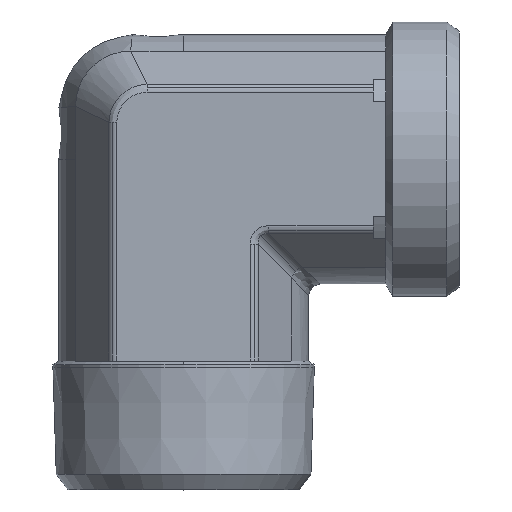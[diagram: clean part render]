
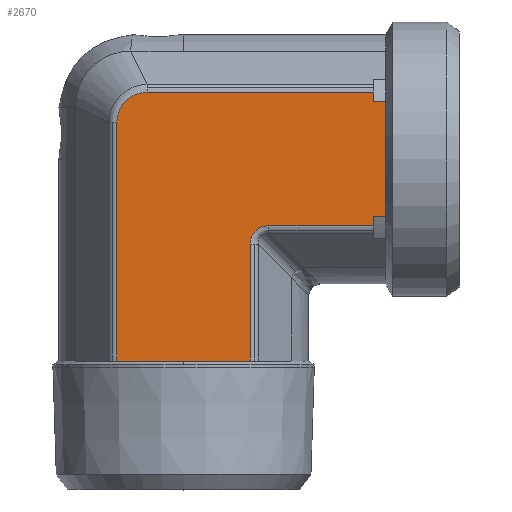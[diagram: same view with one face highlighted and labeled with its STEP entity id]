
A CAD part, top view. The second image highlights one B-rep face of the part: STEP entity #2670.
In plain terms, the highlighted planar face has unit normal (0, 0, 1) as drawn and (0, -1, 0) by its records, which use the part's own axes.
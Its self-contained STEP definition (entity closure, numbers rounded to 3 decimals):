
#361=CARTESIAN_POINT('',(9.429,-20.375,10.897));
#362=VERTEX_POINT('',#361);
#370=CARTESIAN_POINT('',(28.5,-20.375,10.897));
#371=VERTEX_POINT('',#370);
#372=CARTESIAN_POINT('',(9.429,-20.375,10.897));
#373=DIRECTION('',(1.0,0.0,0.0));
#374=VECTOR('',#373,19.071);
#375=LINE('',#372,#374);
#376=EDGE_CURVE('',#362,#371,#375,.T.);
#485=CARTESIAN_POINT('',(-15.397,-20.375,-5.976));
#486=VERTEX_POINT('',#485);
#494=CARTESIAN_POINT('',(-15.397,-20.375,31.0));
#495=VERTEX_POINT('',#494);
#496=CARTESIAN_POINT('',(-15.397,-20.375,-5.976));
#497=DIRECTION('',(0.0,0.0,1.0));
#498=VECTOR('',#497,36.976);
#499=LINE('',#496,#498);
#500=EDGE_CURVE('',#486,#495,#499,.T.);
#711=CARTESIAN_POINT('',(28.5,-20.375,0.));
#712=VERTEX_POINT('',#711);
#2069=CARTESIAN_POINT('',(6.397,-20.375,31.));
#2070=VERTEX_POINT('',#2069);
#2071=CARTESIAN_POINT('',(4.831,-20.375,31.0));
#2072=VERTEX_POINT('',#2071);
#2073=CARTESIAN_POINT('',(6.397,-20.375,31.));
#2074=DIRECTION('',(-1.0,0.0,0.0));
#2075=VECTOR('',#2074,1.566);
#2076=LINE('',#2073,#2075);
#2077=EDGE_CURVE('',#2070,#2072,#2076,.T.);
#2128=CARTESIAN_POINT('',(-13.831,-20.375,31.0));
#2129=VERTEX_POINT('',#2128);
#2130=CARTESIAN_POINT('',(-13.831,-20.375,31.0));
#2131=DIRECTION('',(-1.0,0.0,0.0));
#2132=VECTOR('',#2131,1.566);
#2133=LINE('',#2130,#2132);
#2134=EDGE_CURVE('',#2129,#495,#2133,.T.);
#2233=CARTESIAN_POINT('',(4.831,-20.375,33.0));
#2234=VERTEX_POINT('',#2233);
#2235=CARTESIAN_POINT('',(4.831,-20.375,31.0));
#2236=DIRECTION('',(0.0,0.0,1.0));
#2237=VECTOR('',#2236,2.0);
#2238=LINE('',#2235,#2237);
#2239=EDGE_CURVE('',#2072,#2234,#2238,.T.);
#2274=CARTESIAN_POINT('',(-13.831,-20.375,33.0));
#2275=VERTEX_POINT('',#2274);
#2276=CARTESIAN_POINT('',(-13.831,-20.375,33.0));
#2277=DIRECTION('',(0.0,0.0,-1.0));
#2278=VECTOR('',#2277,2.0);
#2279=LINE('',#2276,#2278);
#2280=EDGE_CURVE('',#2275,#2129,#2279,.T.);
#2576=CARTESIAN_POINT('',(-4.5,-20.375,33.0));
#2577=VERTEX_POINT('',#2576);
#2578=CARTESIAN_POINT('',(-4.5,-20.375,33.0));
#2579=DIRECTION('',(-1.0,0.0,0.0));
#2580=VECTOR('',#2579,9.331);
#2581=LINE('',#2578,#2580);
#2582=EDGE_CURVE('',#2577,#2275,#2581,.T.);
#2600=CARTESIAN_POINT('',(-4.5,-20.375,-3.175));
#2601=DIRECTION('',(0.0,-1.0,0.0));
#2602=DIRECTION('',(0.0,0.0,-1.0));
#2603=AXIS2_PLACEMENT_3D('',#2600,#2601,#2602);
#2604=PLANE('',#2603);
#2605=ORIENTED_EDGE('',*,*,#2280,.T.);
#2606=ORIENTED_EDGE('',*,*,#2134,.T.);
#2607=ORIENTED_EDGE('',*,*,#500,.F.);
#2608=CARTESIAN_POINT('',(-10.476,-20.375,-10.897));
#2609=VERTEX_POINT('',#2608);
#2610=CARTESIAN_POINT('',(-15.397,-20.375,-5.976));
#2611=CARTESIAN_POINT('',(-15.397,-20.375,-6.296));
#2612=CARTESIAN_POINT('',(-15.365,-20.375,-6.619));
#2613=CARTESIAN_POINT('',(-15.2,-20.375,-7.443));
#2614=CARTESIAN_POINT('',(-15.019,-20.375,-7.929));
#2615=CARTESIAN_POINT('',(-14.359,-20.375,-9.1));
#2616=CARTESIAN_POINT('',(-13.773,-20.375,-9.713));
#2617=CARTESIAN_POINT('',(-12.293,-20.375,-10.637));
#2618=CARTESIAN_POINT('',(-11.385,-20.375,-10.897));
#2619=CARTESIAN_POINT('',(-10.476,-20.375,-10.897));
#2620=B_SPLINE_CURVE_WITH_KNOTS('',3,(#2610,#2611,#2612,#2613,#2614,#2615,#2616,#2617,#2618,#2619),.UNSPECIFIED.,.F.,.U.,(4,2,2,2,4),(-7.686,-6.725,-5.188,-2.729,0.0),.UNSPECIFIED.);
#2621=EDGE_CURVE('',#2609,#486,#2620,.F.);
#2622=ORIENTED_EDGE('',*,*,#2621,.F.);
#2623=CARTESIAN_POINT('',(28.5,-20.375,-10.897));
#2624=VERTEX_POINT('',#2623);
#2625=CARTESIAN_POINT('',(28.5,-20.375,-10.897));
#2626=DIRECTION('',(-1.0,0.0,0.0));
#2627=VECTOR('',#2626,38.976);
#2628=LINE('',#2625,#2627);
#2629=EDGE_CURVE('',#2624,#2609,#2628,.T.);
#2630=ORIENTED_EDGE('',*,*,#2629,.F.);
#2631=CARTESIAN_POINT('',(28.5,-20.375,-10.897));
#2632=DIRECTION('',(0.0,0.0,1.0));
#2633=VECTOR('',#2632,10.897);
#2634=LINE('',#2631,#2633);
#2635=EDGE_CURVE('',#2624,#712,#2634,.T.);
#2636=ORIENTED_EDGE('',*,*,#2635,.T.);
#2637=CARTESIAN_POINT('',(28.5,-20.375,0.));
#2638=DIRECTION('',(0.0,0.0,1.0));
#2639=VECTOR('',#2638,10.897);
#2640=LINE('',#2637,#2639);
#2641=EDGE_CURVE('',#712,#371,#2640,.T.);
#2642=ORIENTED_EDGE('',*,*,#2641,.T.);
#2643=ORIENTED_EDGE('',*,*,#376,.F.);
#2644=CARTESIAN_POINT('',(6.397,-20.375,13.929));
#2645=VERTEX_POINT('',#2644);
#2646=CARTESIAN_POINT('',(10.439,-20.375,14.939));
#2647=DIRECTION('',(0.,-1.,0.));
#2648=DIRECTION('',(-0.707,0.,-0.707));
#2649=AXIS2_PLACEMENT_3D('',#2646,#2647,#2648);
#2650=ELLIPSE('',#2649,4.518,3.5);
#2651=EDGE_CURVE('',#2645,#362,#2650,.T.);
#2652=ORIENTED_EDGE('',*,*,#2651,.F.);
#2653=CARTESIAN_POINT('',(6.397,-20.375,31.));
#2654=DIRECTION('',(0.0,0.0,-1.0));
#2655=VECTOR('',#2654,17.071);
#2656=LINE('',#2653,#2655);
#2657=EDGE_CURVE('',#2070,#2645,#2656,.T.);
#2658=ORIENTED_EDGE('',*,*,#2657,.F.);
#2659=ORIENTED_EDGE('',*,*,#2077,.T.);
#2660=ORIENTED_EDGE('',*,*,#2239,.T.);
#2661=CARTESIAN_POINT('',(4.831,-20.375,33.0));
#2662=DIRECTION('',(-1.0,0.0,0.0));
#2663=VECTOR('',#2662,9.331);
#2664=LINE('',#2661,#2663);
#2665=EDGE_CURVE('',#2234,#2577,#2664,.T.);
#2666=ORIENTED_EDGE('',*,*,#2665,.T.);
#2667=ORIENTED_EDGE('',*,*,#2582,.T.);
#2668=EDGE_LOOP('',(#2605,#2606,#2607,#2622,#2630,#2636,#2642,#2643,#2652,#2658,#2659,#2660,#2666,#2667));
#2669=FACE_OUTER_BOUND('',#2668,.T.);
#2670=ADVANCED_FACE('',(#2669),#2604,.T.);
